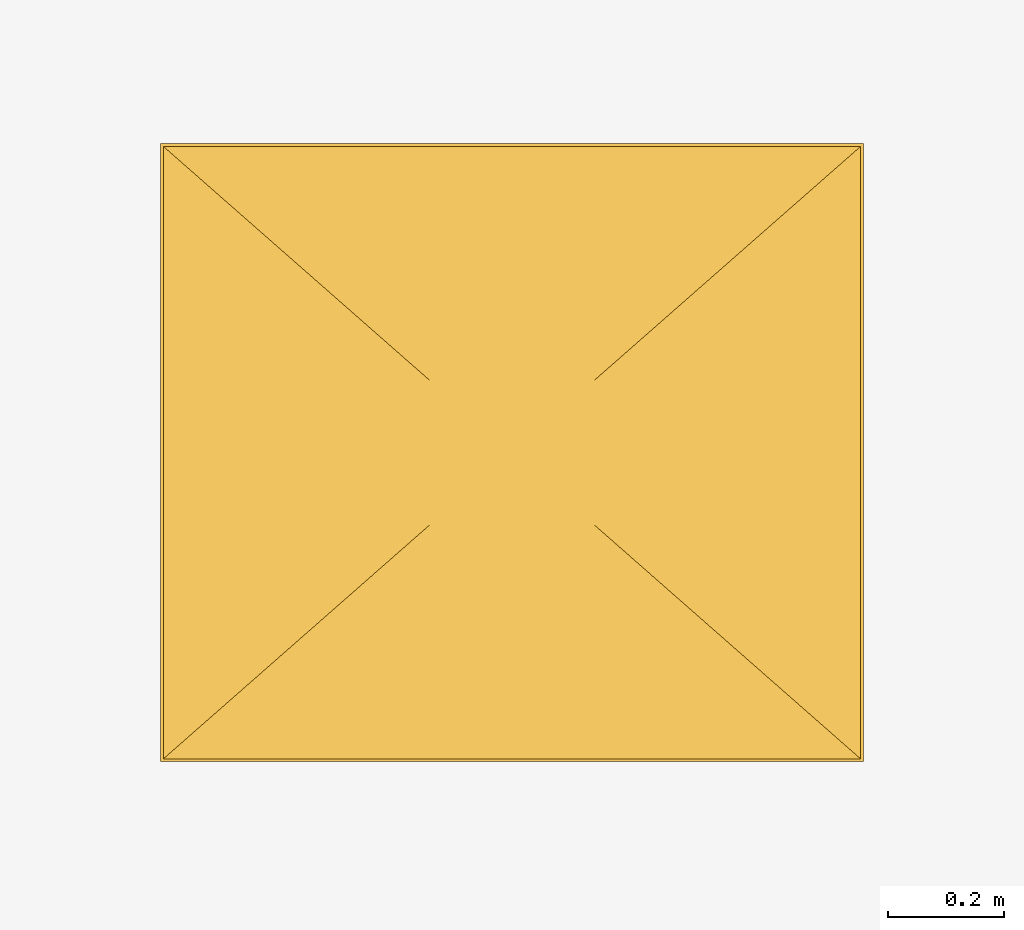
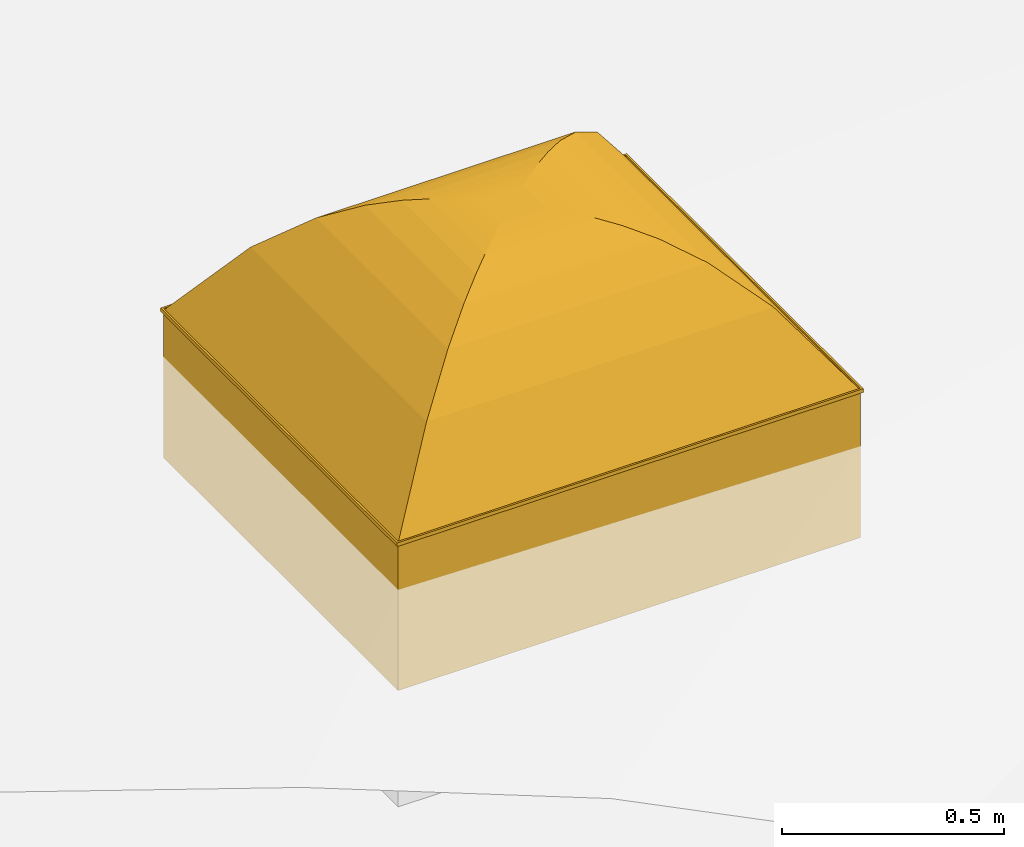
# One storey, part 9 of 9: 1 window.
"""IFC2X3 building model written with IfcOpenShell, lengths in millimetres."""

from ifc_helpers import new_model, entity, si_unit, converted_unit, derived_unit, money_unit, direction, frame, origin_with_axes, place, context, subcontext, project, spatial, open_shell, faceted_brep, surface_model, type_object, element, save


model = new_model("IFC2X3")

# Units and contexts
model_context = context("Model", 3, precision=0.01, world=origin_with_axes(), true_north=direction((0.0, 1.0)))
body_context = subcontext(model_context, "Body", "Model", "MODEL_VIEW")
ifc_project = project(units=[si_unit("LENGTHUNIT", "METRE", prefix="MILLI"), si_unit("AREAUNIT", "SQUARE_METRE"), si_unit("VOLUMEUNIT", "CUBIC_METRE"), converted_unit("PLANEANGLEUNIT", "DEGREE", entity("IfcPlaneAngleMeasure", 0.0174532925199), si_unit("PLANEANGLEUNIT", "RADIAN"), dimensions=[0, 0, 0, 0, 0, 0, 0]), si_unit("SOLIDANGLEUNIT", "STERADIAN"), money_unit("EUR"), converted_unit("TIMEUNIT", "Year", entity("IfcTimeMeasure", 31556926.0), si_unit("TIMEUNIT", "SECOND"), dimensions=[0, 0, 1, 0, 0, 0, 0]), si_unit("MASSUNIT", "GRAM", prefix="KILO"), si_unit("THERMODYNAMICTEMPERATUREUNIT", "DEGREE_CELSIUS"), si_unit("LUMINOUSINTENSITYUNIT", "LUMEN"), si_unit("ENERGYUNIT", "JOULE", prefix="MEGA"), derived_unit("THERMALCONDUCTANCEUNIT", [(si_unit("POWERUNIT", "WATT"), 1), (si_unit("LENGTHUNIT", "METRE"), -1), (si_unit("THERMODYNAMICTEMPERATUREUNIT", "KELVIN"), -1)]), derived_unit("SPECIFICHEATCAPACITYUNIT", [(si_unit("ENERGYUNIT", "JOULE"), 1), (si_unit("MASSUNIT", "GRAM", prefix="KILO"), -1), (si_unit("THERMODYNAMICTEMPERATUREUNIT", "KELVIN"), -1)]), derived_unit("MASSDENSITYUNIT", [(si_unit("MASSUNIT", "GRAM", prefix="KILO"), 1), (si_unit("VOLUMEUNIT", "CUBIC_METRE"), -1)])], contexts=[model_context])

# Site, building, storey
site_placement = place(None, origin_with_axes())
site = spatial("IfcSite", under=ifc_project, at=site_placement, Name="KIRDE 14, ELVA", CompositionType="ELEMENT")
building_placement = place(site_placement, origin_with_axes())
building = spatial("IfcBuilding", under=site, at=building_placement, Name="PPA ja Päästeameti ühishoone", CompositionType="ELEMENT")
storey_placement = place(building_placement, frame((0.0, 0.0, 7700.0), z_axis=(0.0, 0.0, 1.0), x_axis=(1.0, 0.0, 0.0)))
storey = spatial("IfcBuildingStorey", under=building, at=storey_placement, Name="Katusekorrus", CompositionType="ELEMENT", Elevation=7700.0)

# Window
window_style = type_object("IfcWindowStyle", Name="Skylight Dome Rect", ConstructionType="NOTDEFINED", OperationType="NOTDEFINED", ParameterTakesPrecedence=False, Sizeable=False)
window_placement = place(storey_placement, frame((34625.3029559, 13200.0003678, -16.0776392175), z_axis=(0.0, 0.0, 1.0), x_axis=(1.0, 3.98085120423e-10, 0.0)))
element("IfcWindow", 1, at=window_placement, inside=storey, type_object=window_style, Name="KA-01", ObjectType="WINDOW", context=body_context, shape_type="SurfaceModel", body=[
    faceted_brep([(-588.0, 0.0, -250.0), (-588.0, 12.0, -250.0), (588.0, 12.0, -250.0), (588.0, 0.0, -250.0), (-588.0, 0.0, 0.0), (-588.0, 12.0, 0.0), (588.0, 12.0, 0.0), (588.0, 0.0, 0.0)], [[[0, 1, 2, 3]], [[0, 4, 5, 1]], [[1, 5, 6, 2]], [[3, 2, 6, 7]], [[4, 0, 3, 7]], [[5, 4, 7, 6]]]),
    faceted_brep([(-588.0, 1053.99951603, 0.0), (-588.0, 1041.99951603, 0.0), (588.0, 1041.99951603, 0.0), (588.0, 1053.99951603, 0.0), (-588.0, 1053.99951603, -250.0), (-588.0, 1041.99951603, -250.0), (588.0, 1041.99951603, -250.0), (588.0, 1053.99951603, -250.0)], [[[0, 1, 2, 3]], [[0, 4, 5, 1]], [[1, 5, 6, 2]], [[3, 2, 6, 7]], [[4, 0, 3, 7]], [[5, 4, 7, 6]]]),
    faceted_brep([(-600.0, 0.0, -250.0), (-600.0, 1053.99951603, -250.0), (-588.0, 1053.99951603, -250.0), (-588.0, 0.0, -250.0), (-600.0, 0.0, 0.0), (-600.0, 1053.99951603, 0.0), (-588.0, 1053.99951603, 0.0), (-588.0, 0.0, 0.0)], [[[0, 1, 2, 3]], [[0, 4, 5, 1]], [[1, 5, 6, 2]], [[3, 2, 6, 7]], [[4, 0, 3, 7]], [[5, 4, 7, 6]]]),
    faceted_brep([(588.0, 0.0, -250.0), (588.0, 1053.99951603, -250.0), (600.0, 1053.99951603, -250.0), (600.0, 0.0, -250.0), (588.0, 0.0, 0.0), (588.0, 1053.99951603, 0.0), (600.0, 1053.99951603, 0.0), (600.0, 0.0, 0.0)], [[[0, 1, 2, 3]], [[0, 4, 5, 1]], [[1, 5, 6, 2]], [[3, 2, 6, 7]], [[4, 0, 3, 7]], [[5, 4, 7, 6]]]),
    faceted_brep([(-600.0, 0.0, 0.0), (600.0, 0.0, 0.0), (600.0, 0.0, 150.0), (-600.0, 0.0, 150.0), (-600.0, 1053.99951603, 0.0), (600.0, 1053.99951603, 0.0), (-550.0, 50.0, 0.0), (550.0, 50.0, 0.0), (550.0, 1003.99951603, 0.0), (-550.0, 1003.99951603, 0.0), (600.0, 1053.99951603, 150.0), (-600.0, 1053.99951603, 150.0), (-550.0, 50.0, 150.0), (-550.0, 1003.99951603, 150.0), (550.0, 1003.99951603, 150.0), (550.0, 50.0, 150.0)], [[[0, 1, 2, 3]], [[0, 4, 5, 1], [6, 7, 8, 9]], [[1, 5, 10, 2]], [[3, 2, 10, 11], [12, 13, 14, 15]], [[4, 0, 3, 11]], [[5, 4, 11, 10]], [[7, 6, 12, 15]], [[8, 7, 15, 14]], [[9, 8, 14, 13]], [[6, 9, 13, 12]]]),
    faceted_brep([(-605.0, -5.0, 150.0), (605.0, -5.0, 150.0), (605.0, -5.0, 155.0), (-605.0, -5.0, 155.0), (-605.0, 1058.99951603, 150.0), (605.0, 1058.99951603, 150.0), (-590.0, 10.0, 150.0), (590.0, 10.0, 150.0), (590.0, 1043.99951603, 150.0), (-590.0, 1043.99951603, 150.0), (605.0, 1058.99951603, 155.0), (-605.0, 1058.99951603, 155.0), (-590.0, 10.0, 155.0), (-590.0, 1043.99951603, 155.0), (590.0, 1043.99951603, 155.0), (590.0, 10.0, 155.0)], [[[0, 1, 2, 3]], [[0, 4, 5, 1], [6, 7, 8, 9]], [[1, 5, 10, 2]], [[3, 2, 10, 11], [12, 13, 14, 15]], [[4, 0, 3, 11]], [[5, 4, 11, 10]], [[7, 6, 12, 15]], [[8, 7, 15, 14]], [[9, 8, 14, 13]], [[6, 9, 13, 12]]]),
    faceted_brep([(-605.0, -5.0, 155.0), (605.0, -5.0, 155.0), (605.0, -5.0, 160.0), (-605.0, -5.0, 160.0), (-605.0, 1058.99951603, 155.0), (605.0, 1058.99951603, 155.0), (-600.0, 0.0, 155.0), (600.0, 0.0, 155.0), (600.0, 1053.99951603, 155.0), (-600.0, 1053.99951603, 155.0), (605.0, 1058.99951603, 160.0), (-605.0, 1058.99951603, 160.0), (-600.0, 0.0, 160.0), (-600.0, 1053.99951603, 160.0), (600.0, 1053.99951603, 160.0), (600.0, 0.0, 160.0)], [[[0, 1, 2, 3]], [[0, 4, 5, 1], [6, 7, 8, 9]], [[1, 5, 10, 2]], [[3, 2, 10, 11], [12, 13, 14, 15]], [[4, 0, 3, 11]], [[5, 4, 11, 10]], [[7, 6, 12, 15]], [[8, 7, 15, 14]], [[9, 8, 14, 13]], [[6, 9, 13, 12]]]),
    surface_model("IfcShellBasedSurfaceModel", [(-600.0, 0.0, 155.0), (450.0, 131.749939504, 355.784313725), (-450.0, 131.749939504, 355.784313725), (600.0, 0.0, 155.0), (337.5, 230.562394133, 456.176470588), (-600.0, 1053.99951603, 155.0), (450.0, 922.24957653, 355.784313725), (-337.5, 230.562394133, 456.176470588), (337.5, 823.437121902, 456.176470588), (-450.0, 922.24957653, 355.784313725), (600.0, 1053.99951603, 155.0), (253.125, 304.671735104, 506.37254902), (253.125, 749.327780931, 506.37254902), (-337.5, 823.437121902, 456.176470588), (-253.125, 304.671735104, 506.37254902), (-253.125, 749.327780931, 506.37254902), (189.84375, 360.253740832, 531.470588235), (189.84375, 693.745775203, 531.470588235), (-189.84375, 693.745775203, 531.470588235), (-189.84375, 360.253740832, 531.470588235), (142.3828125, 401.940245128, 544.019607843), (142.3828125, 652.059270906, 544.019607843), (-142.3828125, 652.059270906, 544.019607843), (-142.3828125, 401.940245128, 544.019607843), (106.787109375, 433.205123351, 550.294117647), (106.787109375, 620.794392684, 550.294117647), (-106.787109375, 620.794392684, 550.294117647), (-106.787109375, 433.205123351, 550.294117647), (80.0903320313, 456.653782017, 553.431372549), (80.0903320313, 597.345734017, 553.431372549), (-80.0903320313, 597.345734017, 553.431372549), (-80.0903320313, 456.653782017, 553.431372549), (60.0677490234, 474.240276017, 555.0), (60.0677490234, 579.759240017, 555.0), (-60.0677490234, 579.759240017, 555.0), (-60.0677490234, 474.240276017, 555.0)], [open_shell([[[0, 1, 2]], [[1, 0, 3]], [[4, 2, 1]], [[2, 5, 0]], [[3, 6, 1]], [[2, 4, 7]], [[1, 8, 4]], [[5, 2, 9]], [[6, 3, 10]], [[8, 1, 6]], [[11, 7, 4]], [[7, 9, 2]], [[12, 4, 8]], [[9, 10, 5]], [[10, 9, 6]], [[6, 13, 8]], [[7, 11, 14]], [[4, 12, 11]], [[9, 7, 13]], [[8, 15, 12]], [[13, 6, 9]], [[15, 8, 13]], [[16, 14, 11]], [[14, 13, 7]], [[17, 11, 12]], [[18, 12, 15]], [[13, 14, 15]], [[14, 16, 19]], [[11, 17, 16]], [[12, 18, 17]], [[15, 19, 18]], [[19, 15, 14]], [[20, 19, 16]], [[21, 16, 17]], [[22, 17, 18]], [[23, 18, 19]], [[19, 20, 23]], [[16, 21, 20]], [[17, 22, 21]], [[18, 23, 22]], [[24, 23, 20]], [[25, 20, 21]], [[26, 21, 22]], [[27, 22, 23]], [[23, 24, 27]], [[20, 25, 24]], [[21, 26, 25]], [[22, 27, 26]], [[28, 27, 24]], [[29, 24, 25]], [[30, 25, 26]], [[31, 26, 27]], [[27, 28, 31]], [[24, 29, 28]], [[25, 30, 29]], [[26, 31, 30]], [[32, 31, 28]], [[33, 28, 29]], [[34, 29, 30]], [[35, 30, 31]], [[31, 32, 35]], [[28, 33, 32]], [[29, 34, 33]], [[30, 35, 34]], [[35, 32, 33, 34]]])]),
])

save(model, "model.ifc")
